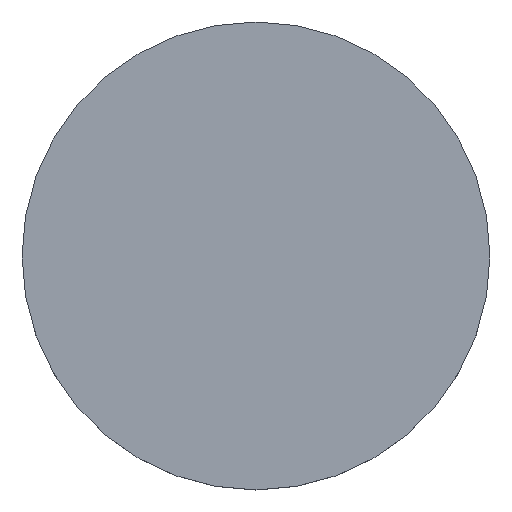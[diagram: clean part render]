
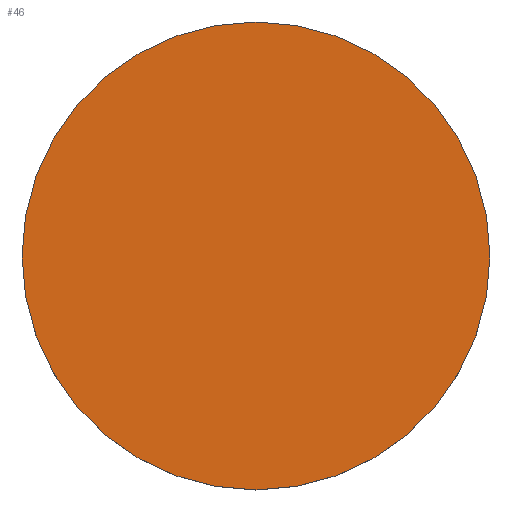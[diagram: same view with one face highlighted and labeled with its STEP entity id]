
A CAD part, top view. The second image highlights one B-rep face of the part: STEP entity #46.
In plain terms, the highlighted planar face has unit normal (0, 0, 1).
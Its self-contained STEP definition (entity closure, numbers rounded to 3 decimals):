
#18=PLANE('',#52);
#24=FACE_OUTER_BOUND('',#28,.T.);
#28=EDGE_LOOP('',(#42));
#30=CIRCLE('',#51,15.);
#32=VERTEX_POINT('',#67);
#35=EDGE_CURVE('',#32,#32,#30,.T.);
#42=ORIENTED_EDGE('',*,*,#35,.T.);
#46=ADVANCED_FACE('',(#24),#18,.T.);
#51=AXIS2_PLACEMENT_3D('',#68,#59,#60);
#52=AXIS2_PLACEMENT_3D('',#266,#61,#62);
#59=DIRECTION('center_axis',(0.,0.,
1.));
#60=DIRECTION('ref_axis',(-1.,0.,0.));
#61=DIRECTION('center_axis',(0.,0.,1.));
#62=DIRECTION('ref_axis',(-0.707,-0.707,0.));
#67=CARTESIAN_POINT('',(15.,0.,-18.943));
#68=CARTESIAN_POINT('Origin',(0.,0.,-18.943));
#266=CARTESIAN_POINT('Origin',(0.,30.804,-18.943));
